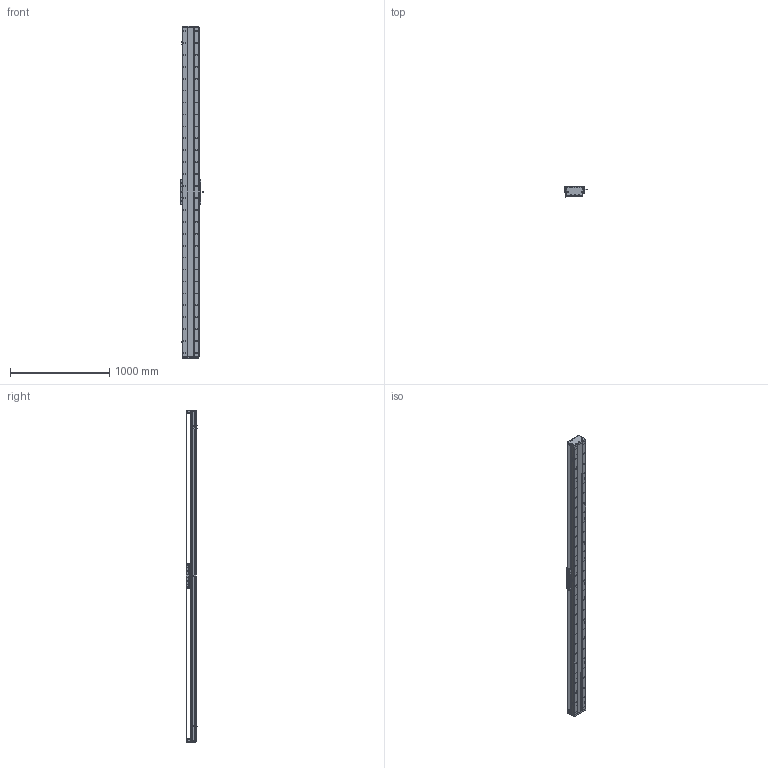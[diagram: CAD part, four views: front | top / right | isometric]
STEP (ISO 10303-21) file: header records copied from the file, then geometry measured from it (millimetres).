
FILE_DESCRIPTION (( 'STEP AP203' ), '1' );
FILE_NAME ('DA-C165-C3-T3000-C010-0.2 直线电机.STEP', '2023-06-13T08:58:52', ( '微软用户' ), ( '微软中国' ), 'SwSTEP 2.0', 'SolidWorks 2019', '' );
FILE_SCHEMA (( 'CONFIG_CONTROL_DESIGN' ));
Length unit declared in the file: millimetre
Products named in the file (18): 复件 DA165-GDLK-00 钢带拉块^复件 CU165钢带组件_DA-C165-C3-T-C010-0.2-N 直线电机; 葩璃 DA95-GT-T-00^IU-CU165-L 菁釱絳寢_T; 复件 DA165-GD-DG-H-00 端盖^复件 CU165钢带组件_DA-C165-C3-T-C010-0.2-N 直线电机; 复件 XD-U-02L 磁栅尺^DA-C165-C3-T-C010-0.2-N 直线电机_T; DA-C165-C3-T3000-C010-0.2 眻盄萇儂; 复件 CU165钢带组件^DA-C165-C3-T-C010-0.2-N 直线电机; 葩璃 CKM01-W075-TRL^DA-C165-C3-T-C010-0.2-N 眻盄萇儂; IU-CU165-L 菁釱絳寢; 葩璃 PM-T45^DA-C165-C3-T-C010-0.2-N 眻盄萇儂; 珨极趙賑雄怢啣C3-wf; 复件 DA165-GYP-00 光电感应片^DA-C165-C3-T-C010-0.2-N 直线电机; 复件 DA165-GD-1860-002-00 钢带盖板^复件 CU165钢带组件_DA-C165-C3-T-C010-0.2-N 直线电机; 复件 DA95-HXJ-00 缓冲橡胶^DA-C165-C3-T-C010-0.2-N 直线电机; 葩璃 CKM03-W075-C1C2-TP-3.0^DA-C165-C3-T-C010-0.2-N 眻盄萇儂; 复件 DA165-GDYK-00 钢带压块^复件 CU165钢带组件_DA-C165-C3-T-C010-0.2-N 直线电机; 复件 DMA-010-0.2 读数头^DA-C165-C3-T-C010-0.2-N 直线电机; 复件 六角薄螺母 M3^DA-C165-C3-T-C010-0.2-N 直线电机_GB_FASTENER_NUT_STNAB M3-C; 复件 CU165 底座^IU-CU165-L 底座导轨_L3300
Assembly tree (35 placements, depth 3):
  DA-C165-C3-T3000-C010-0.2 眻盄萇儂
    IU-CU165-L 菁釱絳寢
      复件 CU165 底座^IU-CU165-L 底座导轨_L3300
      葩璃 DA95-GT-T-00^IU-CU165-L 菁釱絳寢_T  x4
    复件 XD-U-02L 磁栅尺^DA-C165-C3-T-C010-0.2-N 直线电机_T
    葩璃 PM-T45^DA-C165-C3-T-C010-0.2-N 眻盄萇儂  x3
    葩璃 CKM01-W075-TRL^DA-C165-C3-T-C010-0.2-N 眻盄萇儂
    复件 CU165钢带组件^DA-C165-C3-T-C010-0.2-N 直线电机
      复件 DA165-GD-DG-H-00 端盖^复件 CU165钢带组件_DA-C165-C3-T-C010-0.2-N 直线电机  x2
      复件 DA165-GDYK-00 钢带压块^复件 CU165钢带组件_DA-C165-C3-T-C010-0.2-N 直线电机  x2
      复件 DA165-GD-1860-002-00 钢带盖板^复件 CU165钢带组件_DA-C165-C3-T-C010-0.2-N 直线电机
      复件 DA165-GDLK-00 钢带拉块^复件 CU165钢带组件_DA-C165-C3-T-C010-0.2-N 直线电机  x2
    复件 DA95-HXJ-00 缓冲橡胶^DA-C165-C3-T-C010-0.2-N 直线电机  x4
    复件 DA165-GYP-00 光电感应片^DA-C165-C3-T-C010-0.2-N 直线电机
    复件 DMA-010-0.2 读数头^DA-C165-C3-T-C010-0.2-N 直线电机
    葩璃 CKM03-W075-C1C2-TP-3.0^DA-C165-C3-T-C010-0.2-N 眻盄萇儂
    复件 六角薄螺母 M3^DA-C165-C3-T-C010-0.2-N 直线电机_GB_FASTENER_NUT_STNAB M3-C  x8
    珨极趙賑雄怢啣C3-wf
Bounding box: 233 x 111.45 x 3340 mm (x, y, z)
Volume: 18536544.7 mm3; surface area: 5580242.4 mm2
Topology: 72 solids, 122 shells, 4722 faces, 13845 edges, 8804 vertices
Faces by surface type: cylinder 2856, plane 1240, cone 576, torus 46, sphere 4
Entity records: 162033 total; most frequent: CARTESIAN_POINT 45503, ORIENTED_EDGE 24442, DIRECTION 23451, EDGE_CURVE 12221, AXIS2_PLACEMENT_3D 9042, VERTEX_POINT 7992, EDGE_LOOP 5619, VECTOR 5367
